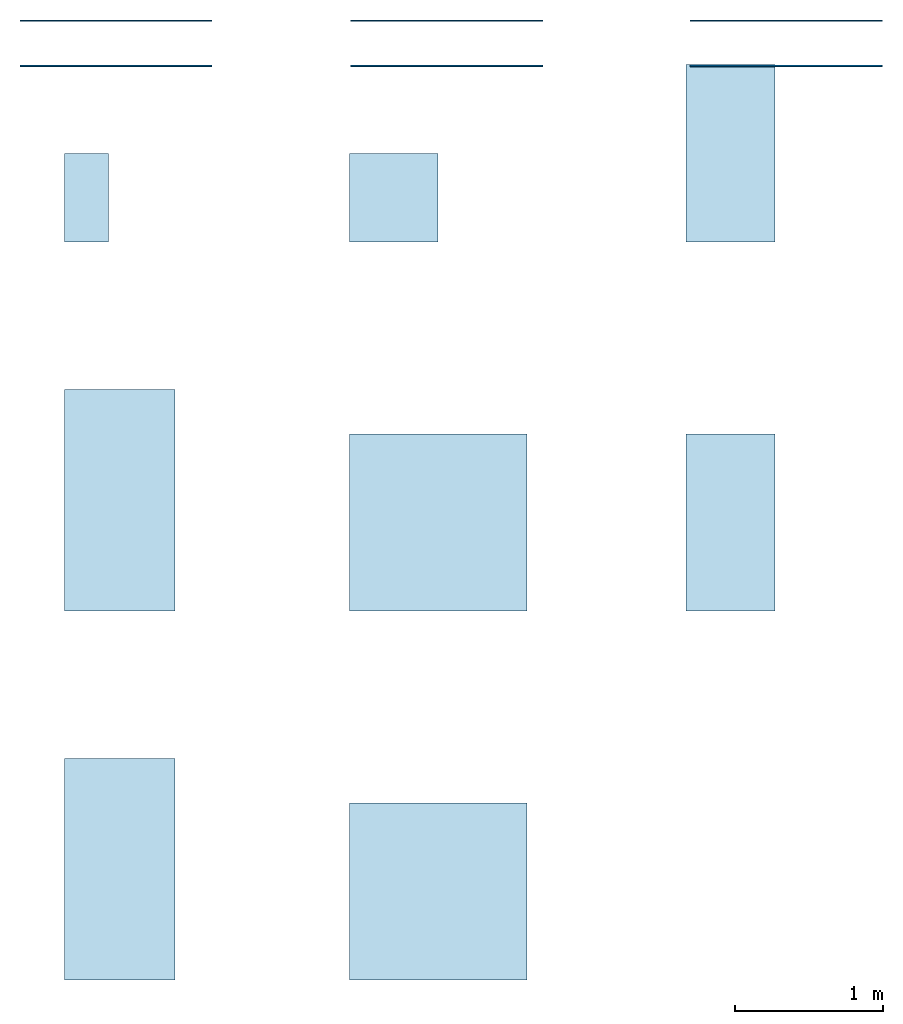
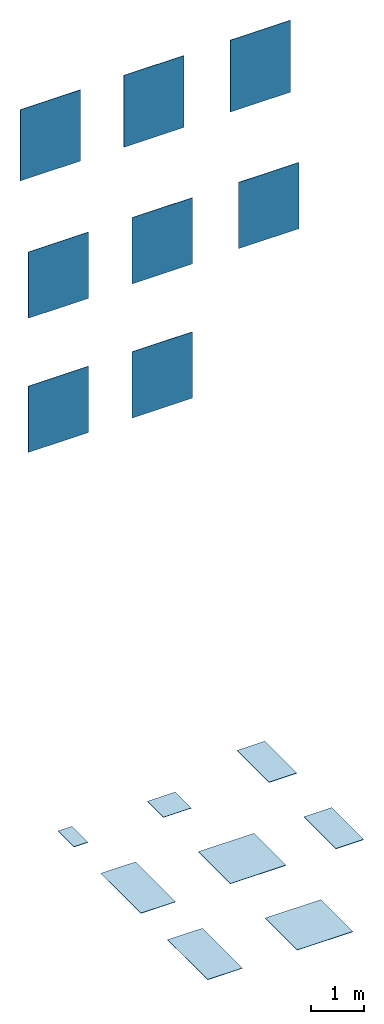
# One storey: 8 slabs, 8 walls.
"""IFC2X3 building model written with IfcOpenShell, lengths in millimetres."""

from ifc_helpers import new_model, entity, si_unit, converted_unit, derived_unit, direction, frame, frame_2d, origin, origin_2d_with_axis, place, context, subcontext, project, spatial, rectangle, extrude, material, layer, layer_set, layer_usage, type_object, element, save


model = new_model("IFC2X3")

# Units and contexts
model_context = context("Model", 3, precision=0.01, world=origin(), true_north=direction((6.123031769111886e-17, 1.0)))
body_context = subcontext(model_context, "Body", "Model", "MODEL_VIEW")
ifc_project = project(units=[si_unit("LENGTHUNIT", "METRE", prefix="MILLI"), si_unit("AREAUNIT", "SQUARE_METRE"), si_unit("VOLUMEUNIT", "CUBIC_METRE"), converted_unit("PLANEANGLEUNIT", "DEGREE", entity("IfcPlaneAngleMeasure", 0.017453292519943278), si_unit("PLANEANGLEUNIT", "RADIAN"), dimensions=[0, 0, 0, 0, 0, 0, 0]), si_unit("MASSUNIT", "GRAM", prefix="KILO"), derived_unit("MASSDENSITYUNIT", [(si_unit("MASSUNIT", "GRAM", prefix="KILO"), 1), (si_unit("LENGTHUNIT", "METRE"), -3)]), derived_unit("IONCONCENTRATIONUNIT", [(si_unit("MASSUNIT", "GRAM", prefix="KILO"), 1), (si_unit("LENGTHUNIT", "METRE"), -3)]), derived_unit("MOMENTOFINERTIAUNIT", [(si_unit("LENGTHUNIT", "METRE"), 4)]), si_unit("TIMEUNIT", "SECOND"), si_unit("FREQUENCYUNIT", "HERTZ"), si_unit("THERMODYNAMICTEMPERATUREUNIT", "DEGREE_CELSIUS"), derived_unit("THERMALTRANSMITTANCEUNIT", [(si_unit("MASSUNIT", "GRAM", prefix="KILO"), 1), (si_unit("THERMODYNAMICTEMPERATUREUNIT", "KELVIN"), -1), (si_unit("TIMEUNIT", "SECOND"), -3)]), derived_unit("THERMALCONDUCTANCEUNIT", [(si_unit("MASSUNIT", "GRAM", prefix="KILO"), 1), (si_unit("THERMODYNAMICTEMPERATUREUNIT", "KELVIN"), -1), (si_unit("TIMEUNIT", "SECOND"), -3), (si_unit("LENGTHUNIT", "METRE"), 1)]), derived_unit("VOLUMETRICFLOWRATEUNIT", [(si_unit("LENGTHUNIT", "METRE", prefix="DECI"), 3), (si_unit("TIMEUNIT", "SECOND"), -1)]), derived_unit("MASSFLOWRATEUNIT", [(si_unit("MASSUNIT", "GRAM", prefix="KILO"), 1), (si_unit("TIMEUNIT", "SECOND"), -1)]), derived_unit("ROTATIONALFREQUENCYUNIT", [(si_unit("TIMEUNIT", "SECOND"), -1)]), si_unit("ELECTRICCURRENTUNIT", "AMPERE"), si_unit("ELECTRICVOLTAGEUNIT", "VOLT"), si_unit("POWERUNIT", "WATT"), si_unit("FORCEUNIT", "NEWTON", prefix="KILO"), si_unit("ILLUMINANCEUNIT", "LUX"), si_unit("LUMINOUSFLUXUNIT", "LUMEN"), si_unit("LUMINOUSINTENSITYUNIT", "CANDELA"), si_unit("ENERGYUNIT", "JOULE"), derived_unit("USERDEFINED", [(si_unit("MASSUNIT", "GRAM", prefix="KILO"), -1), (si_unit("LENGTHUNIT", "METRE"), -2), (si_unit("TIMEUNIT", "SECOND"), 3), (si_unit("LUMINOUSFLUXUNIT", "LUMEN"), 1)]), derived_unit("USERDEFINED", [(si_unit("MASSUNIT", "GRAM", prefix="KILO"), 1), (si_unit("TIMEUNIT", "SECOND"), -3), (si_unit("LENGTHUNIT", "METRE"), 3), (si_unit("ELECTRICCURRENTUNIT", "AMPERE"), -2)]), derived_unit("SOUNDPOWERUNIT", [(si_unit("MASSUNIT", "GRAM", prefix="KILO"), 1), (si_unit("TIMEUNIT", "SECOND"), -3), (si_unit("LENGTHUNIT", "METRE"), 2)]), derived_unit("SOUNDPRESSUREUNIT", [(si_unit("MASSUNIT", "GRAM", prefix="KILO"), 1), (si_unit("LENGTHUNIT", "METRE"), -1), (si_unit("TIMEUNIT", "SECOND"), -2)]), derived_unit("LINEARVELOCITYUNIT", [(si_unit("LENGTHUNIT", "METRE"), 1), (si_unit("TIMEUNIT", "SECOND"), -1)]), si_unit("PRESSUREUNIT", "PASCAL"), derived_unit("USERDEFINED", [(si_unit("MASSUNIT", "GRAM", prefix="KILO"), 1), (si_unit("LENGTHUNIT", "METRE"), -2), (si_unit("TIMEUNIT", "SECOND"), -2)]), derived_unit("LINEARFORCEUNIT", [(si_unit("MASSUNIT", "GRAM", prefix="KILO"), 1), (si_unit("TIMEUNIT", "SECOND"), -2)]), derived_unit("PLANARFORCEUNIT", [(si_unit("MASSUNIT", "GRAM", prefix="KILO"), 1), (si_unit("LENGTHUNIT", "METRE"), -1), (si_unit("TIMEUNIT", "SECOND"), -2)]), derived_unit("SPECIFICHEATCAPACITYUNIT", [(si_unit("THERMODYNAMICTEMPERATUREUNIT", "KELVIN"), -1), (si_unit("LENGTHUNIT", "METRE"), 2), (si_unit("TIMEUNIT", "SECOND"), -2)]), derived_unit("HEATFLUXDENSITYUNIT", [(si_unit("MASSUNIT", "GRAM", prefix="KILO"), 1), (si_unit("TIMEUNIT", "SECOND"), -3)]), derived_unit("HEATINGVALUEUNIT", [(si_unit("LENGTHUNIT", "METRE"), 2), (si_unit("TIMEUNIT", "SECOND"), -2)]), derived_unit("VAPORPERMEABILITYUNIT", [(si_unit("LENGTHUNIT", "METRE"), -1), (si_unit("TIMEUNIT", "SECOND"), 1)]), derived_unit("DYNAMICVISCOSITYUNIT", [(si_unit("MASSUNIT", "GRAM", prefix="KILO"), 1), (si_unit("TIMEUNIT", "SECOND"), -1), (si_unit("LENGTHUNIT", "METRE"), -1)]), derived_unit("THERMALEXPANSIONCOEFFICIENTUNIT", [(si_unit("THERMODYNAMICTEMPERATUREUNIT", "KELVIN"), -1)]), derived_unit("MODULUSOFELASTICITYUNIT", [(si_unit("MASSUNIT", "GRAM", prefix="KILO"), 1), (si_unit("LENGTHUNIT", "METRE"), -1), (si_unit("TIMEUNIT", "SECOND"), -2)]), derived_unit("ISOTHERMALMOISTURECAPACITYUNIT", [(si_unit("MASSUNIT", "GRAM", prefix="KILO"), -1), (si_unit("LENGTHUNIT", "METRE"), 3)]), derived_unit("MOISTUREDIFFUSIVITYUNIT", [(si_unit("TIMEUNIT", "SECOND"), -1), (si_unit("LENGTHUNIT", "METRE"), 2)]), derived_unit("MASSPERLENGTHUNIT", [(si_unit("MASSUNIT", "GRAM", prefix="KILO"), 1), (si_unit("LENGTHUNIT", "METRE"), -1)]), derived_unit("THERMALRESISTANCEUNIT", [(si_unit("MASSUNIT", "GRAM", prefix="KILO"), -1), (si_unit("TIMEUNIT", "SECOND"), 3), (si_unit("THERMODYNAMICTEMPERATUREUNIT", "KELVIN"), 1)]), derived_unit("ACCELERATIONUNIT", [(si_unit("LENGTHUNIT", "METRE"), 1), (si_unit("TIMEUNIT", "SECOND"), -2)]), derived_unit("ANGULARVELOCITYUNIT", [(si_unit("TIMEUNIT", "SECOND"), -1), (si_unit("PLANEANGLEUNIT", "RADIAN"), 1)]), derived_unit("LINEARSTIFFNESSUNIT", [(si_unit("MASSUNIT", "GRAM", prefix="KILO"), 1), (si_unit("TIMEUNIT", "SECOND"), -2)]), derived_unit("WARPINGCONSTANTUNIT", [(si_unit("LENGTHUNIT", "METRE"), 6)]), derived_unit("LINEARMOMENTUNIT", [(si_unit("MASSUNIT", "GRAM", prefix="KILO"), 1), (si_unit("LENGTHUNIT", "METRE"), 1), (si_unit("TIMEUNIT", "SECOND"), -2)]), derived_unit("TORQUEUNIT", [(si_unit("MASSUNIT", "GRAM", prefix="KILO"), 1), (si_unit("LENGTHUNIT", "METRE"), 2), (si_unit("TIMEUNIT", "SECOND"), -2)])], contexts=[model_context])

# Site, building, storey
site_placement = place(None, origin())
site = spatial("IfcSite", under=ifc_project, at=site_placement, Name="Default", CompositionType="ELEMENT")
building_placement = place(site_placement, origin())
building = spatial("IfcBuilding", under=site, at=building_placement, CompositionType="ELEMENT")
storey_placement = place(building_placement, origin())
storey = spatial("IfcBuildingStorey", under=building, at=storey_placement, Name="Level 0", CompositionType="ELEMENT", Elevation=0.0)

# Slabs
ifc_material_1 = material(Name="Etherea-Sand-30x60 RJ93")
ifc_layer_1 = layer(ifc_material_1, 9.0)
ifc_material_2 = material(Name="<Unnamed>")
ifc_layer_2 = layer(ifc_material_2, 1.0)
ifc_layer_set_1 = layer_set([ifc_layer_1, ifc_layer_2], Name="Floor:Floor_Tiles_Refin-Etherea-Sand-30x60 RJ93")
ifc_layer_usage_1 = layer_usage(ifc_layer_set_1, "AXIS3", "POSITIVE", 0.0)
slab_type_1 = type_object("IfcSlabType", Name="Floor:Floor_Tiles_Refin-Etherea-Sand-30x60 RJ93", PredefinedType="FLOOR", material=ifc_layer_set_1)
slab_1_placement = place(storey_placement, origin())
element("IfcSlab", 1, at=slab_1_placement, inside=storey, type_object=slab_type_1, material=ifc_layer_usage_1, Name="Floor:Floor_Tiles_Refin-Etherea-Sand-30x60 RJ93", ObjectType="Floor:Floor_Tiles_Refin-Etherea-Sand-30x60 RJ93", PredefinedType="FLOOR", context=body_context, shape_type="SweptSolid", body=[
    extrude(rectangle(XDim=600.0, YDim=300.0, at=frame_2d((1.0800249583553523e-12, -5.400124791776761e-13), x_axis=(1.0, 0.0))), frame((6824.375206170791, 6939.462374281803, 0.0), z_axis=(0.0, 0.0, -1.0), x_axis=(0.0, 1.0, 0.0)), (0.0, 0.0, 1.0), 10.0),
])
ifc_material_3 = material(Name="Etherea-Sand-60x60 RJ88")
ifc_layer_3 = layer(ifc_material_3, 9.0)
ifc_layer_4 = layer(ifc_material_2, 1.0)
ifc_layer_set_2 = layer_set([ifc_layer_3, ifc_layer_4], Name="Floor:Floor_Tiles_Refin-Etherea-Sand-60x60 RJ88")
ifc_layer_usage_2 = layer_usage(ifc_layer_set_2, "AXIS3", "POSITIVE", 0.0)
slab_type_2 = type_object("IfcSlabType", Name="Floor:Floor_Tiles_Refin-Etherea-Sand-60x60 RJ88", PredefinedType="FLOOR", material=ifc_layer_set_2)
slab_2_placement = place(storey_placement, origin())
element("IfcSlab", 2, at=slab_2_placement, inside=storey, type_object=slab_type_2, material=ifc_layer_usage_2, Name="Floor:Floor_Tiles_Refin-Etherea-Sand-60x60 RJ88", ObjectType="Floor:Floor_Tiles_Refin-Etherea-Sand-60x60 RJ88", PredefinedType="FLOOR", context=body_context, shape_type="SweptSolid", body=[
    extrude(rectangle(XDim=600.0, YDim=600.0, at=frame_2d((0.0, -1.0800249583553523e-12), x_axis=(1.0, 0.0))), frame((8907.392405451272, 6939.462374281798, 0.0), z_axis=(0.0, 0.0, -1.0), x_axis=(0.0, 1.0, 0.0)), (0.0, 0.0, 1.0), 10.0),
])
ifc_material_4 = material(Name="Etherea-Sand-60x120 RJ73")
ifc_layer_5 = layer(ifc_material_4, 9.0)
ifc_layer_6 = layer(ifc_material_2, 1.0)
ifc_layer_set_3 = layer_set([ifc_layer_5, ifc_layer_6], Name="Floor:Floor_Tiles_Refin-Etherea-Sand-60x120 RJ73")
ifc_layer_usage_3 = layer_usage(ifc_layer_set_3, "AXIS3", "POSITIVE", 0.0)
slab_type_3 = type_object("IfcSlabType", Name="Floor:Floor_Tiles_Refin-Etherea-Sand-60x120 RJ73", PredefinedType="FLOOR", material=ifc_layer_set_3)
slab_3_placement = place(storey_placement, origin())
element("IfcSlab", 3, at=slab_3_placement, inside=storey, type_object=slab_type_3, material=ifc_layer_usage_3, Name="Floor:Floor_Tiles_Refin-Etherea-Sand-60x120 RJ73", ObjectType="Floor:Floor_Tiles_Refin-Etherea-Sand-60x120 RJ73", PredefinedType="FLOOR", context=body_context, shape_type="SweptSolid", body=[
    extrude(rectangle(XDim=1200.0, YDim=600.0, at=frame_2d((0.0, 1.0800249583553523e-12), x_axis=(1.0, 0.0))), frame((11187.18614186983, 7239.462374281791, 0.0), z_axis=(0.0, 0.0, -1.0), x_axis=(0.0, 1.0, 0.0)), (0.0, 0.0, 1.0), 10.0),
])
ifc_material_5 = material(Name="Etherea-Sand-75x150 RK17")
ifc_layer_7 = layer(ifc_material_5, 9.0)
ifc_layer_8 = layer(ifc_material_2, 1.0)
ifc_layer_set_4 = layer_set([ifc_layer_7, ifc_layer_8], Name="Floor:Floor_Tiles_Refin-Etherea-Sand-75x150 RK17")
ifc_layer_usage_4 = layer_usage(ifc_layer_set_4, "AXIS3", "POSITIVE", 0.0)
slab_type_4 = type_object("IfcSlabType", Name="Floor:Floor_Tiles_Refin-Etherea-Sand-75x150 RK17", PredefinedType="FLOOR", material=ifc_layer_set_4)
slab_4_placement = place(storey_placement, origin())
element("IfcSlab", 4, at=slab_4_placement, inside=storey, type_object=slab_type_4, material=ifc_layer_usage_4, Name="Floor:Floor_Tiles_Refin-Etherea-Sand-75x150 RK17", ObjectType="Floor:Floor_Tiles_Refin-Etherea-Sand-75x150 RK17", PredefinedType="FLOOR", context=body_context, shape_type="SweptSolid", body=[
    extrude(rectangle(XDim=1499.9999999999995, YDim=750.0000000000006, at=frame_2d((-2.2737367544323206e-13, -1.0800249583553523e-12), x_axis=(1.0, 0.0))), frame((7049.375206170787, 4889.462374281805, 0.0), z_axis=(0.0, 0.0, -1.0), x_axis=(0.0, 1.0, 0.0)), (0.0, 0.0, 1.0), 10.0),
])
ifc_material_6 = material(Name="Etherea-Sand-120x120 RJ67")
ifc_layer_9 = layer(ifc_material_6, 9.0)
ifc_layer_10 = layer(ifc_material_2, 1.0)
ifc_layer_set_5 = layer_set([ifc_layer_9, ifc_layer_10], Name="Floor:Floor_Tiles_Refin-Etherea-Sand-120x120 RJ67")
ifc_layer_usage_5 = layer_usage(ifc_layer_set_5, "AXIS3", "POSITIVE", 0.0)
slab_type_5 = type_object("IfcSlabType", Name="Floor:Floor_Tiles_Refin-Etherea-Sand-120x120 RJ67", PredefinedType="FLOOR", material=ifc_layer_set_5)
slab_5_placement = place(storey_placement, origin())
element("IfcSlab", 5, at=slab_5_placement, inside=storey, type_object=slab_type_5, material=ifc_layer_usage_5, Name="Floor:Floor_Tiles_Refin-Etherea-Sand-120x120 RJ67", ObjectType="Floor:Floor_Tiles_Refin-Etherea-Sand-120x120 RJ67", PredefinedType="FLOOR", context=body_context, shape_type="SweptSolid", body=[
    extrude(rectangle(XDim=1200.0000000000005, YDim=1200.0, at=frame_2d((-2.8421709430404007e-13, 0.0), x_axis=(1.0, 0.0))), frame((9207.392405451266, 4739.4623742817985, 0.0), z_axis=(0.0, 0.0, -1.0), x_axis=(0.0, 1.0, 0.0)), (0.0, 0.0, 1.0), 10.0),
])
ifc_material_7 = material(Name="Etherea-Sand-C2-GRIP-60x120 RN18")
ifc_layer_11 = layer(ifc_material_7, 9.0)
ifc_layer_12 = layer(ifc_material_2, 1.0)
ifc_layer_set_6 = layer_set([ifc_layer_11, ifc_layer_12], Name="Floor:Floor_Tiles_Refin-Etherea-Sand-C2-GRIP-60x120 RN18")
ifc_layer_usage_6 = layer_usage(ifc_layer_set_6, "AXIS3", "POSITIVE", 0.0)
slab_type_6 = type_object("IfcSlabType", Name="Floor:Floor_Tiles_Refin-Etherea-Sand-C2-GRIP-60x120 RN18", PredefinedType="FLOOR", material=ifc_layer_set_6)
slab_6_placement = place(storey_placement, origin())
element("IfcSlab", 6, at=slab_6_placement, inside=storey, type_object=slab_type_6, material=ifc_layer_usage_6, Name="Floor:Floor_Tiles_Refin-Etherea-Sand-C2-GRIP-60x120 RN18", ObjectType="Floor:Floor_Tiles_Refin-Etherea-Sand-C2-GRIP-60x120 RN18", PredefinedType="FLOOR", context=body_context, shape_type="SweptSolid", body=[
    extrude(rectangle(XDim=1200.0000000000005, YDim=600.0, at=frame_2d((-2.8421709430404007e-13, 1.0800249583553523e-12), x_axis=(1.0, 0.0))), frame((11187.186141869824, 4739.462374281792, 0.0), z_axis=(0.0, 0.0, -1.0), x_axis=(0.0, 1.0, 0.0)), (0.0, 0.0, 1.0), 10.0),
])
ifc_material_8 = material(Name="Etherea-Sand-Lucido-75x150 RK22")
ifc_layer_13 = layer(ifc_material_8, 9.0)
ifc_layer_14 = layer(ifc_material_2, 1.0)
ifc_layer_set_7 = layer_set([ifc_layer_13, ifc_layer_14], Name="Floor:Floor_Tiles_Refin-Etherea-Sand-Lucido-75x150 RK22")
ifc_layer_usage_7 = layer_usage(ifc_layer_set_7, "AXIS3", "POSITIVE", 0.0)
slab_type_7 = type_object("IfcSlabType", Name="Floor:Floor_Tiles_Refin-Etherea-Sand-Lucido-75x150 RK22", PredefinedType="FLOOR", material=ifc_layer_set_7)
slab_7_placement = place(storey_placement, origin())
element("IfcSlab", 7, at=slab_7_placement, inside=storey, type_object=slab_type_7, material=ifc_layer_usage_7, Name="Floor:Floor_Tiles_Refin-Etherea-Sand-Lucido-75x150 RK22", ObjectType="Floor:Floor_Tiles_Refin-Etherea-Sand-Lucido-75x150 RK22", PredefinedType="FLOOR", context=body_context, shape_type="SweptSolid", body=[
    extrude(rectangle(XDim=1499.9999999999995, YDim=750.0000000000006, at=frame_2d((0.0, 1.0800249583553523e-12), x_axis=(1.0, 0.0))), frame((7049.375206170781, 2389.462374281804, 0.0), z_axis=(0.0, 0.0, -1.0), x_axis=(0.0, 1.0, 0.0)), (0.0, 0.0, 1.0), 10.0),
])
ifc_material_9 = material(Name="Etherea-Sand-Lucido-120x120 RJ65")
ifc_layer_15 = layer(ifc_material_9, 9.0)
ifc_layer_16 = layer(ifc_material_2, 1.0)
ifc_layer_set_8 = layer_set([ifc_layer_15, ifc_layer_16], Name="Floor:Floor_Tiles_Refin-Etherea-Sand-Lucido-120x120 RJ65")
ifc_layer_usage_8 = layer_usage(ifc_layer_set_8, "AXIS3", "POSITIVE", 0.0)
slab_type_8 = type_object("IfcSlabType", Name="Floor:Floor_Tiles_Refin-Etherea-Sand-Lucido-120x120 RJ65", PredefinedType="FLOOR", material=ifc_layer_set_8)
slab_8_placement = place(storey_placement, origin())
element("IfcSlab", 8, at=slab_8_placement, inside=storey, type_object=slab_type_8, material=ifc_layer_usage_8, Name="Floor:Floor_Tiles_Refin-Etherea-Sand-Lucido-120x120 RJ65", ObjectType="Floor:Floor_Tiles_Refin-Etherea-Sand-Lucido-120x120 RJ65", PredefinedType="FLOOR", context=body_context, shape_type="SweptSolid", body=[
    extrude(rectangle(XDim=1200.0000000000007, YDim=1200.0, at=origin_2d_with_axis()), frame((9207.39240545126, 2239.462374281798, 0.0), z_axis=(0.0, 0.0, -1.0), x_axis=(0.0, 1.0, 0.0)), (0.0, 0.0, 1.0), 10.0),
])

# Walls
ifc_layer_17 = layer(ifc_material_2, 1.0)
ifc_layer_18 = layer(ifc_material_3, 9.0)
ifc_layer_set_9 = layer_set([ifc_layer_17, ifc_layer_18], Name="Basic Wall:Wall_Tiles_Refin-Etherea-Sand-60x60 RJ88")
ifc_layer_usage_9 = layer_usage(ifc_layer_set_9, "AXIS2", "NEGATIVE", 5.000000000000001)
wall_type_1 = type_object("IfcWallType", Name="Basic Wall:Wall_Tiles_Refin-Etherea-Sand-60x60 RJ88", PredefinedType="STANDARD", material=ifc_layer_set_9)
wall_1_placement = place(storey_placement, frame((8614.375206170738, 8137.38386313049, 14387.677044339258)))
element("IfcWallStandardCase", 9, at=wall_1_placement, inside=storey, type_object=wall_type_1, material=ifc_layer_usage_9, Name="Basic Wall:Wall_Tiles_Refin-Etherea-Sand-60x60 RJ88", ObjectType="Basic Wall:Wall_Tiles_Refin-Etherea-Sand-60x60 RJ88", context=body_context, shape_type="SweptSolid", body=[
    extrude(rectangle(XDim=1300.0, YDim=9.999999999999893, at=frame_2d((650.0, 7.638334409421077e-14), x_axis=(-1.0, 0.0))), origin(), (0.0, 0.0, 1.0), 1641.7417352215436),
])
ifc_layer_19 = layer(ifc_material_2, 1.0)
ifc_layer_20 = layer(ifc_material_4, 9.0)
ifc_layer_set_10 = layer_set([ifc_layer_19, ifc_layer_20], Name="Basic Wall:Wall_Tiles_Refin-Etherea-Sand-60x120 RJ73")
ifc_layer_usage_10 = layer_usage(ifc_layer_set_10, "AXIS2", "NEGATIVE", 5.000000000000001)
wall_type_2 = type_object("IfcWallType", Name="Basic Wall:Wall_Tiles_Refin-Etherea-Sand-60x120 RJ73", PredefinedType="STANDARD", material=ifc_layer_set_10)
wall_2_placement = place(storey_placement, frame((10914.37520617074, 8137.383863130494, 14387.677044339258)))
element("IfcWallStandardCase", 10, at=wall_2_placement, inside=storey, type_object=wall_type_2, material=ifc_layer_usage_10, Name="Basic Wall:Wall_Tiles_Refin-Etherea-Sand-60x120 RJ73", ObjectType="Basic Wall:Wall_Tiles_Refin-Etherea-Sand-60x120 RJ73", context=body_context, shape_type="SweptSolid", body=[
    extrude(rectangle(XDim=1299.999999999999, YDim=9.999999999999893, at=frame_2d((649.9999999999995, 7.638334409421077e-14), x_axis=(-1.0, 0.0))), origin(), (0.0, 0.0, 1.0), 1641.7417352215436),
])
ifc_layer_21 = layer(ifc_material_2, 1.0)
ifc_layer_22 = layer(ifc_material_1, 9.0)
ifc_layer_set_11 = layer_set([ifc_layer_21, ifc_layer_22], Name="Basic Wall:Wall_Tiles_Refin-Etherea-Sand-30x60 RJ93")
ifc_layer_usage_11 = layer_usage(ifc_layer_set_11, "AXIS2", "NEGATIVE", 5.000000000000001)
wall_type_3 = type_object("IfcWallType", Name="Basic Wall:Wall_Tiles_Refin-Etherea-Sand-30x60 RJ93", PredefinedType="STANDARD", material=ifc_layer_set_11)
wall_3_placement = place(storey_placement, frame((6374.375206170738, 8137.383863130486, 14403.726734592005)))
element("IfcWallStandardCase", 11, at=wall_3_placement, inside=storey, type_object=wall_type_3, material=ifc_layer_usage_11, Name="Basic Wall:Wall_Tiles_Refin-Etherea-Sand-30x60 RJ93", ObjectType="Basic Wall:Wall_Tiles_Refin-Etherea-Sand-30x60 RJ93", context=body_context, shape_type="SweptSolid", body=[
    extrude(rectangle(XDim=1300.0, YDim=9.999999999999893, at=frame_2d((650.0, 7.638334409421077e-14), x_axis=(-1.0, 0.0))), origin(), (0.0, 0.0, 1.0), 1625.692044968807),
])
ifc_layer_23 = layer(ifc_material_2, 1.0)
ifc_layer_24 = layer(ifc_material_5, 9.0)
ifc_layer_set_12 = layer_set([ifc_layer_23, ifc_layer_24], Name="Basic Wall:Wall_Tiles_Refin-Etherea-Sand-75x150 RK17")
ifc_layer_usage_12 = layer_usage(ifc_layer_set_12, "AXIS2", "NEGATIVE", 5.000000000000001)
wall_type_4 = type_object("IfcWallType", Name="Basic Wall:Wall_Tiles_Refin-Etherea-Sand-75x150 RK17", PredefinedType="STANDARD", material=ifc_layer_set_12)
wall_4_placement = place(storey_placement, frame((6374.375206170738, 7832.383863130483, 11452.543626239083)))
element("IfcWallStandardCase", 12, at=wall_4_placement, inside=storey, type_object=wall_type_4, material=ifc_layer_usage_12, Name="Basic Wall:Wall_Tiles_Refin-Etherea-Sand-75x150 RK17", ObjectType="Basic Wall:Wall_Tiles_Refin-Etherea-Sand-75x150 RK17", context=body_context, shape_type="SweptSolid", body=[
    extrude(rectangle(XDim=1300.0, YDim=9.999999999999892, at=frame_2d((650.0, 0.0), x_axis=(-1.0, 0.0))), origin(), (0.0, 0.0, 1.0), 1513.1985565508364),
])
ifc_layer_25 = layer(ifc_material_2, 1.0)
ifc_layer_26 = layer(ifc_material_6, 9.0)
ifc_layer_set_13 = layer_set([ifc_layer_25, ifc_layer_26], Name="Basic Wall:Wall_Tiles_Refin-Etherea-Sand-120x120 RJ67")
ifc_layer_usage_13 = layer_usage(ifc_layer_set_13, "AXIS2", "NEGATIVE", 5.000000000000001)
wall_type_5 = type_object("IfcWallType", Name="Basic Wall:Wall_Tiles_Refin-Etherea-Sand-120x120 RJ67", PredefinedType="STANDARD", material=ifc_layer_set_13)
wall_5_placement = place(storey_placement, frame((8614.375206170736, 7832.383863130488, 11452.543626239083)))
element("IfcWallStandardCase", 13, at=wall_5_placement, inside=storey, type_object=wall_type_5, material=ifc_layer_usage_13, Name="Basic Wall:Wall_Tiles_Refin-Etherea-Sand-120x120 RJ67", ObjectType="Basic Wall:Wall_Tiles_Refin-Etherea-Sand-120x120 RJ67", context=body_context, shape_type="SweptSolid", body=[
    extrude(rectangle(XDim=1300.0000000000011, YDim=9.999999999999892, at=frame_2d((650.0000000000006, 0.0), x_axis=(-1.0, 0.0))), origin(), (0.0, 0.0, 1.0), 1513.1985565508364),
])
ifc_layer_27 = layer(ifc_material_2, 1.0)
ifc_layer_28 = layer(ifc_material_7, 9.0)
ifc_layer_set_14 = layer_set([ifc_layer_27, ifc_layer_28], Name="Basic Wall:Wall_Tiles_Refin-Etherea-Sand-C2-GRIP-60x120 RN18")
ifc_layer_usage_14 = layer_usage(ifc_layer_set_14, "AXIS2", "NEGATIVE", 5.000000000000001)
wall_type_6 = type_object("IfcWallType", Name="Basic Wall:Wall_Tiles_Refin-Etherea-Sand-C2-GRIP-60x120 RN18", PredefinedType="STANDARD", material=ifc_layer_set_14)
wall_6_placement = place(storey_placement, frame((10914.375206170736, 7832.383863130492, 11452.543626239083)))
element("IfcWallStandardCase", 14, at=wall_6_placement, inside=storey, type_object=wall_type_6, material=ifc_layer_usage_14, Name="Basic Wall:Wall_Tiles_Refin-Etherea-Sand-C2-GRIP-60x120 RN18", ObjectType="Basic Wall:Wall_Tiles_Refin-Etherea-Sand-C2-GRIP-60x120 RN18", context=body_context, shape_type="SweptSolid", body=[
    extrude(rectangle(XDim=1299.999999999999, YDim=9.999999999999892, at=frame_2d((649.9999999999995, 0.0), x_axis=(-1.0, 0.0))), origin(), (0.0, 0.0, 1.0), 1513.1985565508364),
])
ifc_layer_29 = layer(ifc_material_2, 1.0)
ifc_layer_30 = layer(ifc_material_8, 9.0)
ifc_layer_set_15 = layer_set([ifc_layer_29, ifc_layer_30], Name="Basic Wall:Wall_Tiles_Refin-Etherea-Sand-Lucido-75x150 RK22")
ifc_layer_usage_15 = layer_usage(ifc_layer_set_15, "AXIS2", "NEGATIVE", 5.000000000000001)
wall_type_7 = type_object("IfcWallType", Name="Basic Wall:Wall_Tiles_Refin-Etherea-Sand-Lucido-75x150 RK22", PredefinedType="STANDARD", material=ifc_layer_set_15)
wall_7_placement = place(storey_placement, frame((6374.3752061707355, 7832.383863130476, 8388.867029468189)))
element("IfcWallStandardCase", 15, at=wall_7_placement, inside=storey, type_object=wall_type_7, material=ifc_layer_usage_15, Name="Basic Wall:Wall_Tiles_Refin-Etherea-Sand-Lucido-75x150 RK22", ObjectType="Basic Wall:Wall_Tiles_Refin-Etherea-Sand-Lucido-75x150 RK22", context=body_context, shape_type="SweptSolid", body=[
    extrude(rectangle(XDim=1300.0000000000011, YDim=9.999999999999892, at=frame_2d((650.0000000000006, 0.0), x_axis=(-1.0, 0.0))), origin(), (0.0, 0.0, 1.0), 1513.1985565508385),
])
ifc_layer_31 = layer(ifc_material_2, 1.0)
ifc_layer_32 = layer(ifc_material_9, 9.0)
ifc_layer_set_16 = layer_set([ifc_layer_31, ifc_layer_32], Name="Basic Wall:Wall_Tiles_Refin-Etherea-Sand-Lucido-120x120 RJ65")
ifc_layer_usage_16 = layer_usage(ifc_layer_set_16, "AXIS2", "NEGATIVE", 5.000000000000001)
wall_type_8 = type_object("IfcWallType", Name="Basic Wall:Wall_Tiles_Refin-Etherea-Sand-Lucido-120x120 RJ65", PredefinedType="STANDARD", material=ifc_layer_set_16)
wall_8_placement = place(storey_placement, frame((8614.375206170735, 7832.38386313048, 8388.867029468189)))
element("IfcWallStandardCase", 16, at=wall_8_placement, inside=storey, type_object=wall_type_8, material=ifc_layer_usage_16, Name="Basic Wall:Wall_Tiles_Refin-Etherea-Sand-Lucido-120x120 RJ65", ObjectType="Basic Wall:Wall_Tiles_Refin-Etherea-Sand-Lucido-120x120 RJ65", context=body_context, shape_type="SweptSolid", body=[
    extrude(rectangle(XDim=1300.0000000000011, YDim=9.999999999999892, at=frame_2d((650.0000000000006, 0.0), x_axis=(-1.0, 0.0))), origin(), (0.0, 0.0, 1.0), 1513.1985565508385),
])

save(model, "model.ifc")
